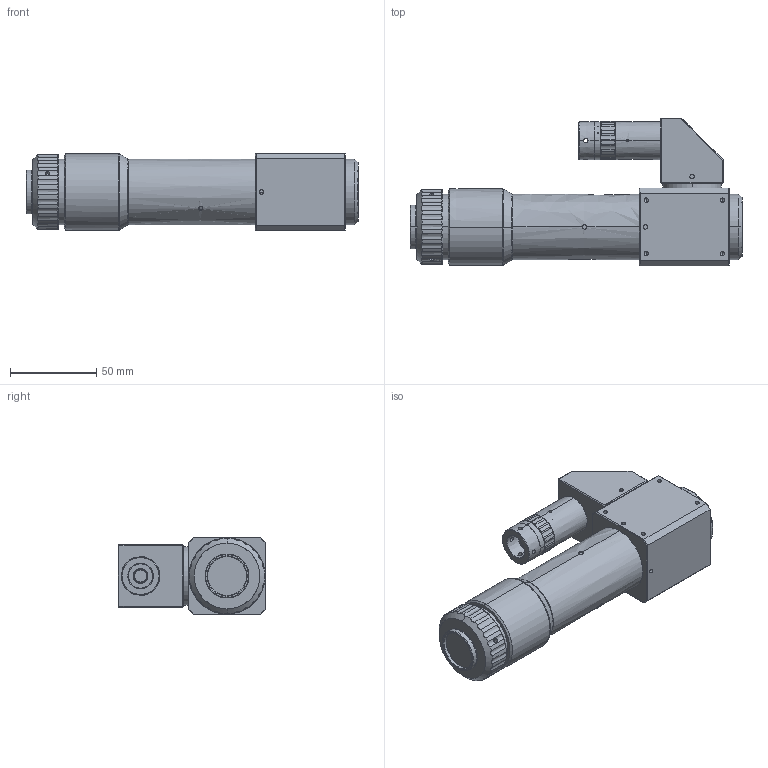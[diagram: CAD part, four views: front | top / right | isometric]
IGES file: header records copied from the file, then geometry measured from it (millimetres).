
Start section: SolidWorks IGES file using analytic representation for surfaces
Global section: file name: E:\liang\光学镜头\TUL\TUL-160134系列\TUL-160134系列\TUL08CV2\A3.0\发客户3D\TUL200-08CL-121V2.IGS; native system: SolidWorks 2017; preprocessor: SolidWorks 2017; author: wenru; date: 230703.104222; units: millimetre
Bounding box: 191.96 x 85.5 x 45 mm (x, y, z)
Surface area: 62624 mm2 (no closed solid volume)
Topology: 0 solids, 0 shells, 810 faces, 13428 edges, 13404 vertices
Faces by surface type: revolution 553, bspline 257
